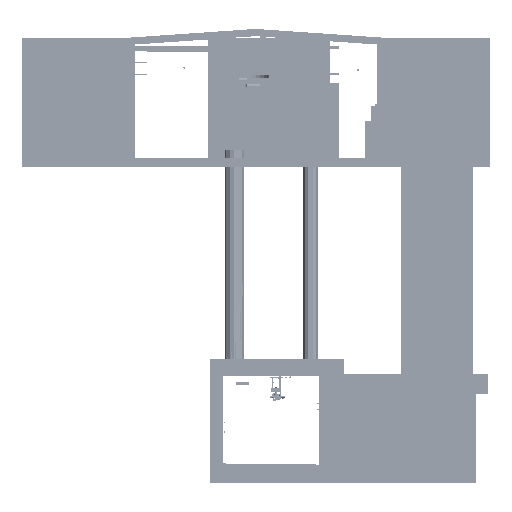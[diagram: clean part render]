
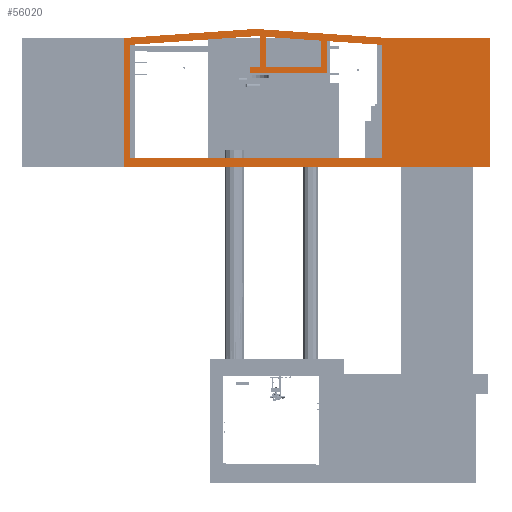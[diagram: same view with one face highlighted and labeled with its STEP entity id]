
A CAD part, left-side view. The second image highlights one B-rep face of the part: STEP entity #56020.
In plain terms, the highlighted planar face has unit normal (-1, 0, 0).
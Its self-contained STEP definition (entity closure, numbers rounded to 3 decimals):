
#11142=ORIENTED_EDGE('',*,*,#22671,.F.);
#11143=ORIENTED_EDGE('',*,*,#21679,.T.);
#11144=ORIENTED_EDGE('',*,*,#22665,.T.);
#11145=ORIENTED_EDGE('',*,*,#24021,.T.);
#11146=ORIENTED_EDGE('',*,*,#23637,.F.);
#11147=ORIENTED_EDGE('',*,*,#24022,.F.);
#11148=ORIENTED_EDGE('',*,*,#22678,.F.);
#11149=ORIENTED_EDGE('',*,*,#24023,.T.);
#11150=ORIENTED_EDGE('',*,*,#22667,.T.);
#11151=ORIENTED_EDGE('',*,*,#22656,.T.);
#11152=ORIENTED_EDGE('',*,*,#22659,.T.);
#11153=ORIENTED_EDGE('',*,*,#24024,.T.);
#11154=ORIENTED_EDGE('',*,*,#24025,.F.);
#11155=ORIENTED_EDGE('',*,*,#23869,.T.);
#11156=ORIENTED_EDGE('',*,*,#22120,.T.);
#11157=ORIENTED_EDGE('',*,*,#24026,.T.);
#11158=ORIENTED_EDGE('',*,*,#22688,.T.);
#11159=ORIENTED_EDGE('',*,*,#24027,.F.);
#11160=ORIENTED_EDGE('',*,*,#24028,.F.);
#11161=ORIENTED_EDGE('',*,*,#22717,.F.);
#11162=ORIENTED_EDGE('',*,*,#23977,.F.);
#11163=ORIENTED_EDGE('',*,*,#23991,.F.);
#21679=EDGE_CURVE('',#28892,#28891,#34127,.T.);
#22120=EDGE_CURVE('',#29331,#29330,#34424,.T.);
#22656=EDGE_CURVE('',#29741,#29743,#34951,.T.);
#22659=EDGE_CURVE('',#29743,#29745,#34954,.T.);
#22665=EDGE_CURVE('',#28891,#29749,#34960,.T.);
#22667=EDGE_CURVE('',#29751,#29741,#34962,.T.);
#22671=EDGE_CURVE('',#28892,#29754,#34966,.T.);
#22678=EDGE_CURVE('',#29760,#29761,#34973,.T.);
#22688=EDGE_CURVE('',#29770,#29769,#34983,.T.);
#22717=EDGE_CURVE('',#29798,#29799,#35012,.T.);
#23637=EDGE_CURVE('',#30394,#29330,#35890,.T.);
#23869=EDGE_CURVE('',#30464,#29331,#36054,.T.);
#23977=EDGE_CURVE('',#30502,#29798,#36135,.T.);
#23991=EDGE_CURVE('',#30506,#30502,#36149,.T.);
#24021=EDGE_CURVE('',#29749,#29754,#36161,.T.);
#24022=EDGE_CURVE('',#29761,#30394,#36162,.T.);
#24023=EDGE_CURVE('',#29760,#29751,#36163,.T.);
#24024=EDGE_CURVE('',#29745,#30531,#36164,.T.);
#24025=EDGE_CURVE('',#30464,#30531,#36165,.T.);
#24026=EDGE_CURVE('',#30506,#29770,#36166,.T.);
#24027=EDGE_CURVE('',#30532,#29769,#36167,.T.);
#24028=EDGE_CURVE('',#29799,#30532,#36168,.T.);
#28891=VERTEX_POINT('',#88964);
#28892=VERTEX_POINT('',#88966);
#29330=VERTEX_POINT('',#89849);
#29331=VERTEX_POINT('',#89851);
#29741=VERTEX_POINT('',#90948);
#29743=VERTEX_POINT('',#90952);
#29745=VERTEX_POINT('',#90958);
#29749=VERTEX_POINT('',#90970);
#29751=VERTEX_POINT('',#90976);
#29754=VERTEX_POINT('',#90984);
#29760=VERTEX_POINT('',#90997);
#29761=VERTEX_POINT('',#90999);
#29769=VERTEX_POINT('',#91017);
#29770=VERTEX_POINT('',#91019);
#29798=VERTEX_POINT('',#91076);
#29799=VERTEX_POINT('',#91078);
#30394=VERTEX_POINT('',#92861);
#30464=VERTEX_POINT('',#93263);
#30502=VERTEX_POINT('',#93460);
#30506=VERTEX_POINT('',#93485);
#30531=VERTEX_POINT('',#93559);
#30532=VERTEX_POINT('',#93563);
#34127=LINE('',#88965,#38917);
#34424=LINE('',#89850,#39214);
#34951=LINE('',#90953,#39741);
#34954=LINE('',#90959,#39744);
#34960=LINE('',#90971,#39750);
#34962=LINE('',#90975,#39752);
#34966=LINE('',#90983,#39756);
#34973=LINE('',#90998,#39763);
#34983=LINE('',#91018,#39773);
#35012=LINE('',#91077,#39802);
#35890=LINE('',#92862,#40680);
#36054=LINE('',#93267,#40844);
#36135=LINE('',#93461,#40925);
#36149=LINE('',#93486,#40939);
#36161=LINE('',#93555,#40951);
#36162=LINE('',#93556,#40952);
#36163=LINE('',#93557,#40953);
#36164=LINE('',#93558,#40954);
#36165=LINE('',#93560,#40955);
#36166=LINE('',#93561,#40956);
#36167=LINE('',#93562,#40957);
#36168=LINE('',#93564,#40958);
#38917=VECTOR('',#71978,1000.);
#39214=VECTOR('',#72573,1000.);
#39741=VECTOR('',#73426,1000.);
#39744=VECTOR('',#73431,1000.);
#39750=VECTOR('',#73441,1000.);
#39752=VECTOR('',#73445,1000.);
#39756=VECTOR('',#73451,1000.);
#39763=VECTOR('',#73460,1000.);
#39773=VECTOR('',#73472,1000.);
#39802=VECTOR('',#73503,1000.);
#40680=VECTOR('',#75003,1000.);
#40844=VECTOR('',#75507,1000.);
#40925=VECTOR('',#75740,1000.);
#40939=VECTOR('',#75768,1000.);
#40951=VECTOR('',#75846,1000.);
#40952=VECTOR('',#75847,1000.);
#40953=VECTOR('',#75848,1000.);
#40954=VECTOR('',#75849,1000.);
#40955=VECTOR('',#75850,1000.);
#40956=VECTOR('',#75851,1000.);
#40957=VECTOR('',#75852,1000.);
#40958=VECTOR('',#75853,1000.);
#44387=EDGE_LOOP('',(#11142,#11143,#11144,#11145));
#44388=EDGE_LOOP('',(#11146,#11147,#11148,#11149,#11150,#11151,#11152,#11153,
#11154,#11155,#11156));
#44389=EDGE_LOOP('',(#11157,#11158,#11159,#11160,#11161,#11162,#11163));
#49406=FACE_BOUND('',#44387,.T.);
#49407=FACE_BOUND('',#44388,.T.);
#49408=FACE_BOUND('',#44389,.T.);
#54081=PLANE('',#66731);
#56020=ADVANCED_FACE('',(#49406,#49407,#49408),#54081,.F.);
#66731=AXIS2_PLACEMENT_3D('',#93554,#75844,#75845);
#71978=DIRECTION('',(0.,0.,-1.));
#72573=DIRECTION('',(0.,1.,0.));
#73426=DIRECTION('',(0.,0.,-1.));
#73431=DIRECTION('',(0.,-1.,0.));
#73441=DIRECTION('',(0.,1.,0.));
#73445=DIRECTION('',(0.,1.,0.));
#73451=DIRECTION('',(0.,0.998,0.069));
#73460=DIRECTION('',(0.,0.998,0.069));
#73472=DIRECTION('',(0.,1.,0.));
#73503=DIRECTION('',(0.,-1.,0.));
#75003=DIRECTION('',(0.,0.,-1.));
#75507=DIRECTION('',(0.,0.,-1.));
#75740=DIRECTION('',(0.,0.,1.));
#75768=DIRECTION('',(0.,1.,0.));
#75844=DIRECTION('',(1.,0.,0.));
#75845=DIRECTION('',(0.,1.,0.));
#75846=DIRECTION('',(0.,0.,1.));
#75847=DIRECTION('',(0.,0.998,-0.069));
#75848=DIRECTION('',(0.,0.,-1.));
#75849=DIRECTION('',(0.,0.,1.));
#75850=DIRECTION('',(0.,0.998,0.069));
#75851=DIRECTION('',(0.,0.,1.));
#75852=DIRECTION('',(0.,-0.998,-0.069));
#75853=DIRECTION('',(0.,-0.998,0.069));
#88964=CARTESIAN_POINT('',(0.,-2275.55,3200.4));
#88965=CARTESIAN_POINT('',(0.,-2275.55,4109.917));
#88966=CARTESIAN_POINT('',(0.,-2275.55,4109.917));
#89849=CARTESIAN_POINT('',(0.,4419.6,0.));
#89850=CARTESIAN_POINT('',(0.,-4419.6,0.));
#89851=CARTESIAN_POINT('',(0.,-4419.6,0.));
#90948=CARTESIAN_POINT('',(0.,213.65,3200.4));
#90952=CARTESIAN_POINT('',(0.,213.65,2997.2));
#90953=CARTESIAN_POINT('',(0.,213.65,2997.2));
#90958=CARTESIAN_POINT('',(0.,-2478.75,2997.2));
#90959=CARTESIAN_POINT('',(0.,-2478.75,2997.2));
#90970=CARTESIAN_POINT('',(0.,-345.15,3200.4));
#90971=CARTESIAN_POINT('',(0.,-2275.55,3200.4));
#90975=CARTESIAN_POINT('',(0.,-141.95,3200.4));
#90976=CARTESIAN_POINT('',(0.,-141.95,3200.4));
#90983=CARTESIAN_POINT('',(0.,10.45,4267.2));
#90984=CARTESIAN_POINT('',(0.,-345.15,4242.734));
#90997=CARTESIAN_POINT('',(0.,-141.95,4256.714));
#90998=CARTESIAN_POINT('',(0.,10.45,4267.2));
#90999=CARTESIAN_POINT('',(0.,10.45,4267.2));
#91017=CARTESIAN_POINT('',(0.,-4419.6,4216.4));
#91018=CARTESIAN_POINT('',(0.,-4622.8,4216.4));
#91019=CARTESIAN_POINT('',(0.,-8178.8,4216.4));
#91076=CARTESIAN_POINT('',(0.,4622.8,4216.4));
#91077=CARTESIAN_POINT('',(0.,4622.8,4216.4));
#91078=CARTESIAN_POINT('',(0.,4419.6,4216.4));
#92861=CARTESIAN_POINT('',(0.,4419.6,3962.4));
#92862=CARTESIAN_POINT('',(0.,4419.6,4216.4));
#93263=CARTESIAN_POINT('',(0.,-4419.6,3962.4));
#93267=CARTESIAN_POINT('',(0.,-4419.6,4216.4));
#93460=CARTESIAN_POINT('',(0.,4622.8,-304.8));
#93461=CARTESIAN_POINT('',(0.,4622.8,-304.8));
#93485=CARTESIAN_POINT('',(0.,-8178.8,-304.8));
#93486=CARTESIAN_POINT('',(0.,-4419.6,-304.8));
#93554=CARTESIAN_POINT('',(0.,-4419.6,-304.8));
#93555=CARTESIAN_POINT('',(0.,-345.15,4242.734));
#93556=CARTESIAN_POINT('',(0.,4419.6,3962.4));
#93557=CARTESIAN_POINT('',(0.,-141.95,4256.714));
#93558=CARTESIAN_POINT('',(0.,-2478.75,4095.936));
#93559=CARTESIAN_POINT('',(0.,-2478.75,4095.936));
#93560=CARTESIAN_POINT('',(0.,10.45,4267.2));
#93561=CARTESIAN_POINT('',(0.,-8178.8,-304.8));
#93562=CARTESIAN_POINT('',(0.,10.45,4521.2));
#93563=CARTESIAN_POINT('',(0.,10.45,4521.2));
#93564=CARTESIAN_POINT('',(0.,4419.6,4216.4));
